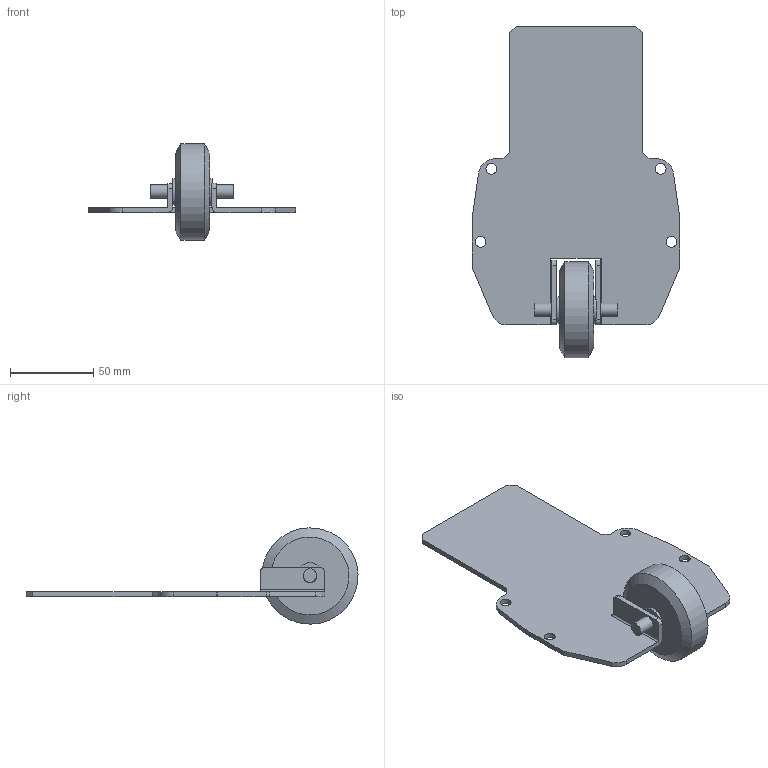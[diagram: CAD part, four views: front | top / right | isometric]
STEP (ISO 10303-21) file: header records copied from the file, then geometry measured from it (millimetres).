
FILE_DESCRIPTION(/* description */ ('Unknown'),/* implementation_level */ '2;1');
FILE_NAME(/* name */ 'MGD3-EDR',/* time_stamp */ '2020-08-05T21:40:40+02:00',/* author */ ('Unknown'),/* organization */ ('Unknown'),/* preprocessor_version */ 'ST-DEVELOPER v16.7',/* originating_system */ 'DEX',/* authorisation */ $);
FILE_SCHEMA (('AUTOMOTIVE_DESIGN {1 0 10303 214 3 1 1}'));
Length unit declared in the file: millimetre
Products named in the file (5): Enddeckel mit Rolle MGD3; ENDDECKELMITROLLE3MM3D; Endrolle; 8; Enddeckelbolzen
Assembly tree (5 placements, depth 2):
  Enddeckel mit Rolle MGD3
    ENDDECKELMITROLLE3MM3D
    Endrolle
    8  x2
    Enddeckelbolzen
Bounding box: 125 x 199.98 x 57.95 mm (x, y, z)
Volume: 107217 mm3; surface area: 49339.5 mm2
Topology: 5 solids, 5 shells, 73 faces, 187 edges, 124 vertices
Faces by surface type: plane 38, cylinder 31, bspline 2, cone 2
Full cylindrical faces by diameter (mm): 6.5 x4, 8 x2, 8.15 x2, 8.4 x2, 16 x2, 58 x1
Entity records: 2297 total; most frequent: CARTESIAN_POINT 433, DIRECTION 370, ORIENTED_EDGE 336, EDGE_CURVE 168, AXIS2_PLACEMENT_3D 133, VERTEX_POINT 120, LINE 104, VECTOR 104
